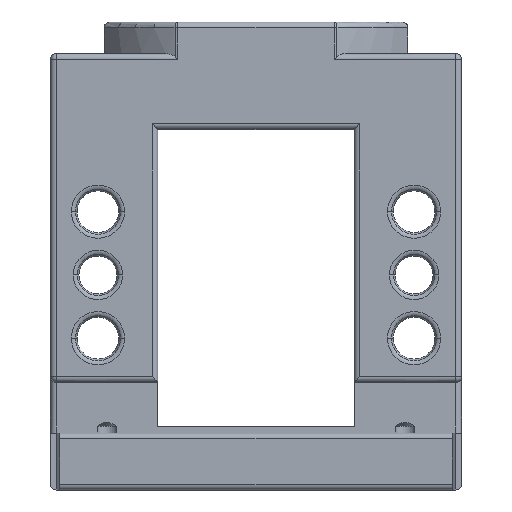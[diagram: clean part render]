
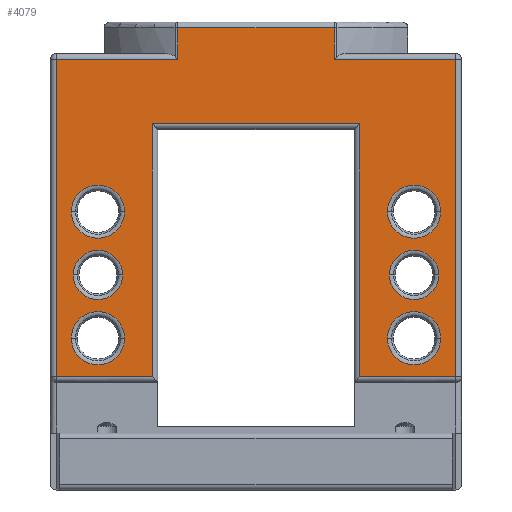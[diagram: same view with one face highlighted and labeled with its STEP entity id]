
A CAD part, front view. The second image highlights one B-rep face of the part: STEP entity #4079.
In plain terms, the highlighted planar face has unit normal (0, -1, 0).
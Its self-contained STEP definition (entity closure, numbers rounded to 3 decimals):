
#169=CARTESIAN_POINT('',(-25.,-25.,39.));
#170=DIRECTION('',(0.,1.,0.));
#171=DIRECTION('',(-1.,0.,0.));
#172=AXIS2_PLACEMENT_3D('',#169,#170,#171);
#174=CARTESIAN_POINT('',(-25.,-25.,39.));
#175=DIRECTION('',(0.,1.,0.));
#176=DIRECTION('',(1.,0.,0.));
#177=AXIS2_PLACEMENT_3D('',#174,#175,#176);
#179=CARTESIAN_POINT('',(25.,-25.,39.));
#180=DIRECTION('',(0.,1.,0.));
#181=DIRECTION('',(-1.,0.,0.));
#182=AXIS2_PLACEMENT_3D('',#179,#180,#181);
#184=CARTESIAN_POINT('',(25.,-25.,39.));
#185=DIRECTION('',(0.,1.,0.));
#186=DIRECTION('',(1.,0.,0.));
#187=AXIS2_PLACEMENT_3D('',#184,#185,#186);
#189=CARTESIAN_POINT('',(25.,-25.,19.));
#190=DIRECTION('',(0.,1.,0.));
#191=DIRECTION('',(-1.,0.,0.));
#192=AXIS2_PLACEMENT_3D('',#189,#190,#191);
#194=CARTESIAN_POINT('',(25.,-25.,19.));
#195=DIRECTION('',(0.,1.,0.));
#196=DIRECTION('',(1.,0.,0.));
#197=AXIS2_PLACEMENT_3D('',#194,#195,#196);
#199=CARTESIAN_POINT('',(-25.,-25.,19.));
#200=DIRECTION('',(0.,1.,0.));
#201=DIRECTION('',(-1.,0.,0.));
#202=AXIS2_PLACEMENT_3D('',#199,#200,#201);
#204=CARTESIAN_POINT('',(-25.,-25.,19.));
#205=DIRECTION('',(0.,1.,0.));
#206=DIRECTION('',(1.,0.,0.));
#207=AXIS2_PLACEMENT_3D('',#204,#205,#206);
#209=CARTESIAN_POINT('',(25.,-25.,29.));
#210=DIRECTION('',(0.,1.,0.));
#211=DIRECTION('',(-1.,0.,0.));
#212=AXIS2_PLACEMENT_3D('',#209,#210,#211);
#214=CARTESIAN_POINT('',(25.,-25.,29.));
#215=DIRECTION('',(0.,1.,0.));
#216=DIRECTION('',(1.,0.,0.));
#217=AXIS2_PLACEMENT_3D('',#214,#215,#216);
#219=CARTESIAN_POINT('',(-25.,-25.,29.));
#220=DIRECTION('',(0.,1.,0.));
#221=DIRECTION('',(-1.,0.,0.));
#222=AXIS2_PLACEMENT_3D('',#219,#220,#221);
#224=CARTESIAN_POINT('',(-25.,-25.,29.));
#225=DIRECTION('',(0.,1.,0.));
#226=DIRECTION('',(1.,0.,0.));
#227=AXIS2_PLACEMENT_3D('',#224,#225,#226);
#1086=DIRECTION('',(-1.,0.,0.));
#1087=VECTOR('',#1086,15.2);
#1088=CARTESIAN_POINT('',(31.6,-25.,12.9));
#1089=LINE('',#1088,#1087);
#1108=DIRECTION('',(0.,0.,1.));
#1109=VECTOR('',#1108,40.);
#1110=CARTESIAN_POINT('',(16.4,-25.,12.9));
#1111=LINE('',#1110,#1109);
#1130=DIRECTION('',(-1.,0.,0.));
#1131=VECTOR('',#1130,32.8);
#1132=CARTESIAN_POINT('',(16.4,-25.,52.9));
#1133=LINE('',#1132,#1131);
#1495=DIRECTION('',(1.,0.,0.));
#1496=VECTOR('',#1495,19.206);
#1497=CARTESIAN_POINT('',(12.394,-25.,63.1));
#1498=LINE('',#1497,#1496);
#1567=DIRECTION('',(0.,0.,-1.));
#1568=VECTOR('',#1567,50.2);
#1569=CARTESIAN_POINT('',(31.6,-25.,63.1));
#1570=LINE('',#1569,#1568);
#1571=DIRECTION('',(0.,0.,-1.));
#1572=VECTOR('',#1571,5.);
#1573=CARTESIAN_POINT('',(12.394,-25.,68.1));
#1574=LINE('',#1573,#1572);
#1594=DIRECTION('',(1.,0.,0.));
#1595=VECTOR('',#1594,24.787);
#1596=CARTESIAN_POINT('',(-12.394,-25.,68.1));
#1597=LINE('',#1596,#1595);
#1621=DIRECTION('',(0.,0.,1.));
#1622=VECTOR('',#1621,5.);
#1623=CARTESIAN_POINT('',(-12.394,-25.,63.1));
#1624=LINE('',#1623,#1622);
#1644=DIRECTION('',(1.,0.,0.));
#1645=VECTOR('',#1644,19.206);
#1646=CARTESIAN_POINT('',(-31.6,-25.,63.1));
#1647=LINE('',#1646,#1645);
#1667=DIRECTION('',(0.,0.,1.));
#1668=VECTOR('',#1667,50.2);
#1669=CARTESIAN_POINT('',(-31.6,-25.,12.9));
#1670=LINE('',#1669,#1668);
#1708=DIRECTION('',(-1.,0.,0.));
#1709=VECTOR('',#1708,15.2);
#1710=CARTESIAN_POINT('',(-16.4,-25.,12.9));
#1711=LINE('',#1710,#1709);
#1730=DIRECTION('',(0.,0.,-1.));
#1731=VECTOR('',#1730,40.);
#1732=CARTESIAN_POINT('',(-16.4,-25.,52.9));
#1733=LINE('',#1732,#1731);
#3210=CARTESIAN_POINT('',(16.4,-25.,52.9));
#3211=CARTESIAN_POINT('',(-16.4,-25.,52.9));
#3212=VERTEX_POINT('',#3210);
#3213=VERTEX_POINT('',#3211);
#3214=CARTESIAN_POINT('',(16.4,-25.,12.9));
#3215=VERTEX_POINT('',#3214);
#3216=CARTESIAN_POINT('',(31.6,-25.,12.9));
#3217=VERTEX_POINT('',#3216);
#3218=CARTESIAN_POINT('',(31.6,-25.,63.1));
#3219=VERTEX_POINT('',#3218);
#3220=CARTESIAN_POINT('',(12.394,-25.,63.1));
#3221=VERTEX_POINT('',#3220);
#3222=CARTESIAN_POINT('',(12.394,-25.,68.1));
#3223=VERTEX_POINT('',#3222);
#3224=CARTESIAN_POINT('',(-12.394,-25.,68.1));
#3225=VERTEX_POINT('',#3224);
#3226=CARTESIAN_POINT('',(-12.394,-25.,63.1));
#3227=VERTEX_POINT('',#3226);
#3228=CARTESIAN_POINT('',(-31.6,-25.,63.1));
#3229=VERTEX_POINT('',#3228);
#3230=CARTESIAN_POINT('',(-31.6,-25.,12.9));
#3231=VERTEX_POINT('',#3230);
#3232=CARTESIAN_POINT('',(-16.4,-25.,12.9));
#3233=VERTEX_POINT('',#3232);
#3423=CARTESIAN_POINT('',(-28.9,-25.,29.));
#3424=VERTEX_POINT('',#3423);
#3425=CARTESIAN_POINT('',(-21.1,-25.,29.));
#3426=VERTEX_POINT('',#3425);
#3435=CARTESIAN_POINT('',(21.1,-25.,29.));
#3436=VERTEX_POINT('',#3435);
#3437=CARTESIAN_POINT('',(28.9,-25.,29.));
#3438=VERTEX_POINT('',#3437);
#3447=CARTESIAN_POINT('',(-29.2,-25.,19.));
#3448=VERTEX_POINT('',#3447);
#3449=CARTESIAN_POINT('',(-20.8,-25.,19.));
#3450=VERTEX_POINT('',#3449);
#3459=CARTESIAN_POINT('',(20.8,-25.,19.));
#3460=VERTEX_POINT('',#3459);
#3461=CARTESIAN_POINT('',(29.2,-25.,19.));
#3462=VERTEX_POINT('',#3461);
#3471=CARTESIAN_POINT('',(20.8,-25.,39.));
#3472=VERTEX_POINT('',#3471);
#3473=CARTESIAN_POINT('',(29.2,-25.,39.));
#3474=VERTEX_POINT('',#3473);
#3483=CARTESIAN_POINT('',(-29.2,-25.,39.));
#3484=VERTEX_POINT('',#3483);
#3485=CARTESIAN_POINT('',(-20.8,-25.,39.));
#3486=VERTEX_POINT('',#3485);
#4013=CARTESIAN_POINT('',(32.5,-25.,64.));
#4014=DIRECTION('',(0.,1.,0.));
#4015=DIRECTION('',(1.,0.,0.));
#4016=AXIS2_PLACEMENT_3D('',#4013,#4014,#4015);
#4017=PLANE('',#4016);
#4019=ORIENTED_EDGE('',*,*,#4018,.T.);
#4021=ORIENTED_EDGE('',*,*,#4020,.T.);
#4023=ORIENTED_EDGE('',*,*,#4022,.T.);
#4025=ORIENTED_EDGE('',*,*,#4024,.T.);
#4027=ORIENTED_EDGE('',*,*,#4026,.T.);
#4029=ORIENTED_EDGE('',*,*,#4028,.T.);
#4031=ORIENTED_EDGE('',*,*,#4030,.T.);
#4033=ORIENTED_EDGE('',*,*,#4032,.T.);
#4035=ORIENTED_EDGE('',*,*,#4034,.T.);
#4037=ORIENTED_EDGE('',*,*,#4036,.T.);
#4039=ORIENTED_EDGE('',*,*,#4038,.T.);
#4041=ORIENTED_EDGE('',*,*,#4040,.T.);
#4042=EDGE_LOOP('',(#4019,#4021,#4023,#4025,#4027,#4029,#4031,#4033,#4035,#4037,
#4039,#4041));
#4043=FACE_OUTER_BOUND('',#4042,.F.);
#4045=ORIENTED_EDGE('',*,*,#4044,.F.);
#4047=ORIENTED_EDGE('',*,*,#4046,.F.);
#4048=EDGE_LOOP('',(#4045,#4047));
#4049=FACE_BOUND('',#4048,.F.);
#4051=ORIENTED_EDGE('',*,*,#4050,.F.);
#4052=ORIENTED_EDGE('',*,*,#4003,.F.);
#4053=EDGE_LOOP('',(#4051,#4052));
#4054=FACE_BOUND('',#4053,.F.);
#4056=ORIENTED_EDGE('',*,*,#4055,.F.);
#4058=ORIENTED_EDGE('',*,*,#4057,.F.);
#4059=EDGE_LOOP('',(#4056,#4058));
#4060=FACE_BOUND('',#4059,.F.);
#4062=ORIENTED_EDGE('',*,*,#4061,.F.);
#4064=ORIENTED_EDGE('',*,*,#4063,.F.);
#4065=EDGE_LOOP('',(#4062,#4064));
#4066=FACE_BOUND('',#4065,.F.);
#4068=ORIENTED_EDGE('',*,*,#4067,.F.);
#4070=ORIENTED_EDGE('',*,*,#4069,.F.);
#4071=EDGE_LOOP('',(#4068,#4070));
#4072=FACE_BOUND('',#4071,.F.);
#4074=ORIENTED_EDGE('',*,*,#4073,.F.);
#4076=ORIENTED_EDGE('',*,*,#4075,.F.);
#4077=EDGE_LOOP('',(#4074,#4076));
#4078=FACE_BOUND('',#4077,.F.);
#173=CIRCLE('',#172,4.2);
#178=CIRCLE('',#177,4.2);
#183=CIRCLE('',#182,4.2);
#188=CIRCLE('',#187,4.2);
#193=CIRCLE('',#192,4.2);
#198=CIRCLE('',#197,4.2);
#203=CIRCLE('',#202,4.2);
#208=CIRCLE('',#207,4.2);
#213=CIRCLE('',#212,3.9);
#218=CIRCLE('',#217,3.9);
#223=CIRCLE('',#222,3.9);
#228=CIRCLE('',#227,3.9);
#4003=EDGE_CURVE('',#3462,#3460,#198,.T.);
#4018=EDGE_CURVE('',#3212,#3213,#1133,.T.);
#4020=EDGE_CURVE('',#3213,#3233,#1733,.T.);
#4022=EDGE_CURVE('',#3233,#3231,#1711,.T.);
#4024=EDGE_CURVE('',#3231,#3229,#1670,.T.);
#4026=EDGE_CURVE('',#3229,#3227,#1647,.T.);
#4028=EDGE_CURVE('',#3227,#3225,#1624,.T.);
#4030=EDGE_CURVE('',#3225,#3223,#1597,.T.);
#4032=EDGE_CURVE('',#3223,#3221,#1574,.T.);
#4034=EDGE_CURVE('',#3221,#3219,#1498,.T.);
#4036=EDGE_CURVE('',#3219,#3217,#1570,.T.);
#4038=EDGE_CURVE('',#3217,#3215,#1089,.T.);
#4040=EDGE_CURVE('',#3215,#3212,#1111,.T.);
#4044=EDGE_CURVE('',#3472,#3474,#183,.T.);
#4046=EDGE_CURVE('',#3474,#3472,#188,.T.);
#4050=EDGE_CURVE('',#3460,#3462,#193,.T.);
#4055=EDGE_CURVE('',#3448,#3450,#203,.T.);
#4057=EDGE_CURVE('',#3450,#3448,#208,.T.);
#4061=EDGE_CURVE('',#3436,#3438,#213,.T.);
#4063=EDGE_CURVE('',#3438,#3436,#218,.T.);
#4067=EDGE_CURVE('',#3424,#3426,#223,.T.);
#4069=EDGE_CURVE('',#3426,#3424,#228,.T.);
#4073=EDGE_CURVE('',#3484,#3486,#173,.T.);
#4075=EDGE_CURVE('',#3486,#3484,#178,.T.);
#4079=ADVANCED_FACE('',(#4043,#4049,#4054,#4060,#4066,#4072,#4078),#4017,.F.);
